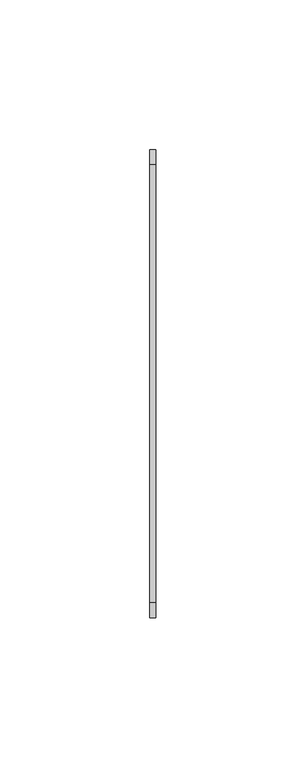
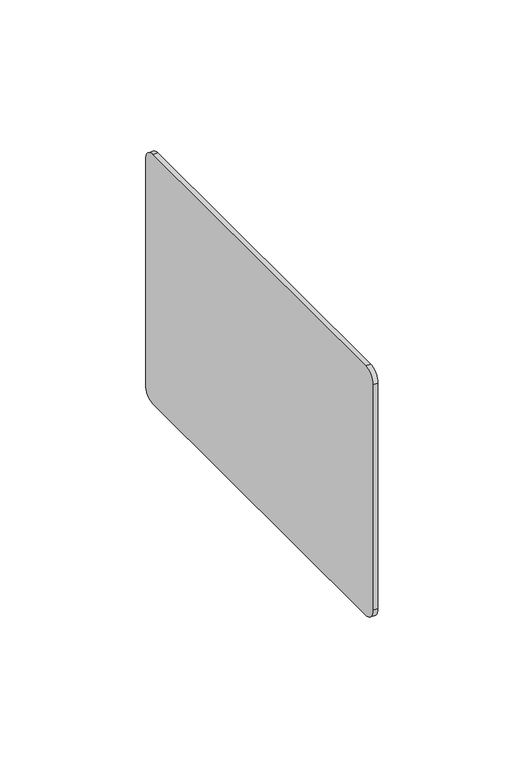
"""IFC4 building model written with IfcOpenShell, lengths in millimetres: proxy geometry, Zakończenie RENODRAIN : Zakończenie RENODRAIN."""

from ifc_helpers import new_model, si_unit, point, frame, frame_2d, origin, place, context, project, spatial, polyline, circle_curve, trimmed, segment, composite_curve, outline, extrude, source, transform, mapped, element, save


def generic_models_1564dfc5(model_context):
    return source(origin(), model_context, "Body", "SweptSolid", [
        extrude(outline(composite_curve([segment(polyline([(146.0, 37.0), (146.0, -57.5000001)]), True, "CONTINUOUS"), segment(trimmed(circle_curve(frame_2d((141.0, -57.5000001)), 5.0), [point((146.0, -57.5000001))], [point((141.0, -62.5000001))], False, "CARTESIAN"), True, "CONTINUOUS"), segment(polyline([(141.0, -62.5000001), (-5.0, -62.5000001)]), True, "CONTINUOUS"), segment(trimmed(circle_curve(frame_2d((-5.0, -57.5000001)), 5.0), [point((-5.0, -62.5000001))], [point((-10.0, -57.5000001))], False, "CARTESIAN"), True, "CONTINUOUS"), segment(polyline([(-10.0, -57.5000001), (-10.0, 37.0)]), True, "CONTINUOUS"), segment(trimmed(circle_curve(frame_2d((-5.0, 37.0)), 5.0), [point((-10.0, 37.0))], [point((-5.0, 42.0))], False, "CARTESIAN"), True, "CONTINUOUS"), segment(polyline([(-5.0, 42.0), (141.0, 42.0)]), True, "CONTINUOUS"), segment(trimmed(circle_curve(frame_2d((141.0, 37.0)), 5.0), [point((141.0, 42.0))], [point((146.0, 37.0))], False, "CARTESIAN"), True, "CONTINUOUS")], self_intersect=False)), frame((-3.0, 0.0, 0.0), z_axis=(1.0, 0.0, 0.0), x_axis=(0.0, 1.0, 0.0)), (0.0, 0.0, 1.0), 2.0),
    ])


if __name__ == "__main__":
    model = new_model("IFC4")
    model_context = context("Model", 3, world=origin())
    ifc_project = project(units=[si_unit("LENGTHUNIT", "METRE", prefix="MILLI")], contexts=[model_context])
    site = spatial("IfcSite", under=ifc_project)
    building = spatial("IfcBuilding", under=site)
    placement = place(None, origin())
    generic_models_shape = generic_models_1564dfc5(model_context)
    element("IfcBuildingElementProxy", 1, Name="Zakończenie RENODRAIN : Zakończenie RENODRAIN", ObjectType="Zakończenie RENODRAIN : Zakończenie RENODRAIN", at=placement, inside=building, context=model_context, shape_type="MappedRepresentation", body=[
        mapped(generic_models_shape, transform((0.0, 0.0, 0.0), x_axis=(1.0, 0.0, 0.0), y_axis=(0.0, 1.0, 0.0), z_axis=(0.0, 0.0, 1.0))),
    ])
    save(model, "model.ifc")
